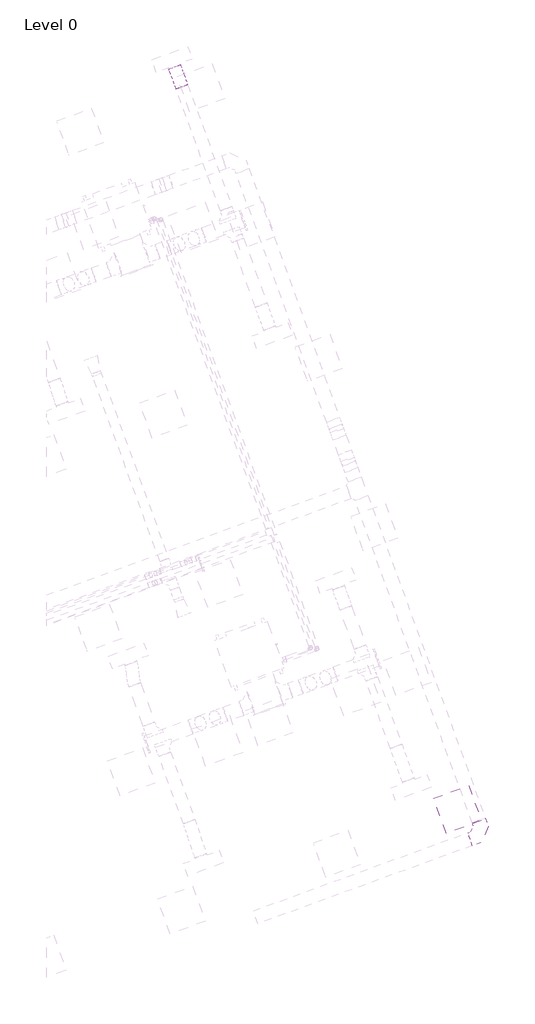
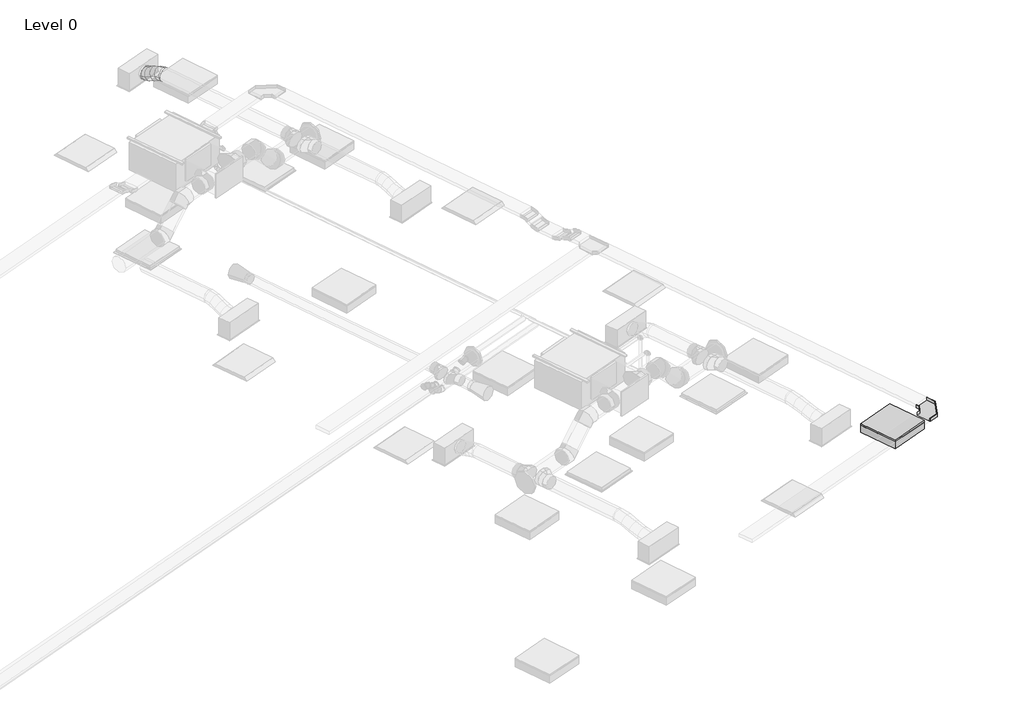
# One storey, part 34 of 34: 1 cable carrier fitting, 1 duct segment, 1 light fixture.
"""IFC4 building model written with IfcOpenShell, lengths in millimetres."""

from ifc_helpers import new_model, si_unit, frame, origin, place, context, project, spatial, circle_curve, ellipse_curve, transform, mapped, element, save
from ifc_brep_helpers import plane_surface, cylinder_surface, advanced_brep
from components import cable_tray_horizontal_bend_standard_fd552271, troffer_light_2x2_parabolic_2_x2_2_lamp_120v_6a063ff3

model = new_model("IFC4")

# Units and contexts
model_context = context("Model", 3, world=origin())
ifc_project = project(units=[si_unit("LENGTHUNIT", "METRE", prefix="MILLI")], contexts=[model_context])

# Site, building, storey
site = spatial("IfcSite", under=ifc_project)
building = spatial("IfcBuilding", under=site)
storey = spatial("IfcBuildingStorey", under=building, Name="Level 0", Elevation=0.0)

# Cable carrier fitting
placement = place(None, origin())
cable_tray_horizontal_bend_standard_shape = cable_tray_horizontal_bend_standard_fd552271(model_context)
element("IfcCableCarrierFitting", 1, ObjectType="Cable Tray Horizontal Bend : Standard", at=placement, inside=storey, context=model_context, shape_type="MappedRepresentation", body=[
    mapped(cable_tray_horizontal_bend_standard_shape, transform((64419.4120815, 12194.2633634, 3248.9627355), x_axis=(0.9396926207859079, 0.34202014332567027, 0.0), y_axis=(-0.34202014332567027, 0.9396926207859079, 0.0), z_axis=(0.0, 0.0, 1.0))),
])

# Duct segment
element("IfcDuctSegment", 2, ObjectType="Flex - Round", at=placement, inside=storey, context=model_context, shape_type="AdvancedBrep", body=[
    advanced_brep(
    [(59391.7751792, 24361.973208, 3072.2088531), (59485.7444412, 24396.1752224, 2972.2088531), (59579.7137033, 24430.3772367, 3072.2088531), (59485.7444412, 24396.1752224, 3172.2088531), (59384.8599769, 24380.9725701, 3072.2088531), (59483.3165362, 24402.8458367, 2972.2088531), (59572.7985011, 24449.3765987, 3072.2088531), (59474.3419418, 24427.5033322, 3172.2088531), (59272.272719, 24690.3035188, 2954.4), (59366.2419811, 24724.5055332, 3054.4), (59460.2112432, 24758.7075475, 2954.4), (59366.2419811, 24724.5055332, 2854.4), (59361.2798724, 24445.7583747, 3053.8012198), (59467.0749017, 24447.4693607, 2959.5299419), (59549.2183966, 24514.1624034, 3053.8012198), (59443.4233673, 24512.4514173, 3148.0724978), (59332.0239491, 24526.1383634, 3013.3044266), (59440.6282832, 24520.1308477, 2922.9218599), (59519.9624732, 24594.5423921, 3013.3044266), (59411.3581391, 24600.5499078, 3103.6869932), (59302.7680258, 24606.5183522, 2972.8076333), (59408.563055, 24608.2293382, 2878.5363553), (59490.7065499, 24674.9223809, 2972.8076333), (59384.9115206, 24673.2113948, 3067.0789113), (59279.1879213, 24671.3041568, 2954.4), (59377.6444806, 24693.1774234, 2854.4), (59467.1264454, 24739.7081855, 2954.4), (59368.6698861, 24717.8349189, 3054.4)],
    [
        (0, 1, circle_curve(frame((59485.7444412, 24396.1752224, 3072.2088531), z_axis=(0.34202014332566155, -0.9396926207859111, 0.0), x_axis=(-0.9396926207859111, -0.34202014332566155, 0.0)), 100.0)),
        (1, 2, circle_curve(frame((59485.7444412, 24396.1752224, 3072.2088531), z_axis=(0.34202014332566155, -0.9396926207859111, 0.0), x_axis=(-0.9396926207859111, -0.34202014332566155, 0.0)), 100.0)),
        (2, 3, circle_curve(frame((59485.7444412, 24396.1752224, 3072.2088531), z_axis=(0.34202014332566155, -0.9396926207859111, 0.0), x_axis=(-0.9396926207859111, -0.34202014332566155, 0.0)), 100.0)),
        (3, 0, circle_curve(frame((59485.7444412, 24396.1752224, 3072.2088531), z_axis=(0.34202014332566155, -0.9396926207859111, 0.0), x_axis=(-0.9396926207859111, -0.34202014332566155, 0.0)), 100.0)),
        (0, 4),
        (4, 5, ellipse_curve(frame((59478.829239, 24415.1745844, 3072.2088531), z_axis=(0.33911394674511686, -0.931707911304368, 0.13008496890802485), x_axis=(0.04449167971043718, -0.12223988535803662, -0.9915028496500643)), 100.8569971, 100.0)),
        (5, 1),
        (5, 6, ellipse_curve(frame((59478.829239, 24415.1745844, 3072.2088531), z_axis=(0.33911394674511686, -0.931707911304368, 0.13008496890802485), x_axis=(0.04449167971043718, -0.12223988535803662, -0.9915028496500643)), 100.8569971, 100.0)),
        (6, 2),
        (6, 7, ellipse_curve(frame((59478.829239, 24415.1745844, 3072.2088531), z_axis=(0.33911394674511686, -0.931707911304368, 0.13008496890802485), x_axis=(0.04449167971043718, -0.12223988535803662, -0.9915028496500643)), 100.8569971, 100.0)),
        (7, 3),
        (7, 4, ellipse_curve(frame((59478.829239, 24415.1745844, 3072.2088531), z_axis=(0.33911394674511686, -0.931707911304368, 0.13008496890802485), x_axis=(0.04449167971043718, -0.12223988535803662, -0.9915028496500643)), 100.8569971, 100.0)),
        (8, 9, circle_curve(frame((59366.2419811, 24724.5055332, 2954.4), z_axis=(-0.342020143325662, 0.9396926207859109, 0.0), x_axis=(-0.9396926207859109, -0.342020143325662, 0.0)), 100.0)),
        (9, 10, circle_curve(frame((59366.2419811, 24724.5055332, 2954.4), z_axis=(-0.342020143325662, 0.9396926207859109, 0.0), x_axis=(-0.9396926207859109, -0.342020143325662, 0.0)), 100.0)),
        (10, 11, circle_curve(frame((59366.2419811, 24724.5055332, 2954.4), z_axis=(-0.342020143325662, 0.9396926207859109, 0.0), x_axis=(-0.9396926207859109, -0.342020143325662, 0.0)), 100.0)),
        (11, 8, circle_curve(frame((59366.2419811, 24724.5055332, 2954.4), z_axis=(-0.342020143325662, 0.9396926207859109, 0.0), x_axis=(-0.9396926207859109, -0.342020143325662, 0.0)), 100.0)),
        (4, 12),
        (12, 13, ellipse_curve(frame((59455.2491345, 24479.960389, 3053.8012198), z_axis=(0.32110349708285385, -0.8822246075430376, 0.3443432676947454), x_axis=(0.11777233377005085, -0.3235768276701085, -0.9388438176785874)), 100.4120986, 100.0)),
        (13, 5),
        (13, 14, ellipse_curve(frame((59455.2491345, 24479.960389, 3053.8012198), z_axis=(0.32110349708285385, -0.8822246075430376, 0.3443432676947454), x_axis=(0.11777233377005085, -0.3235768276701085, -0.9388438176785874)), 100.4120986, 100.0)),
        (14, 6),
        (14, 15, ellipse_curve(frame((59455.2491345, 24479.960389, 3053.8012198), z_axis=(0.32110349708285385, -0.8822246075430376, 0.3443432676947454), x_axis=(0.11777233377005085, -0.3235768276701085, -0.9388438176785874)), 100.4120986, 100.0)),
        (15, 7),
        (15, 12, ellipse_curve(frame((59455.2491345, 24479.960389, 3053.8012198), z_axis=(0.32110349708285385, -0.8822246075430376, 0.3443432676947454), x_axis=(0.11777233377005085, -0.3235768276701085, -0.9388438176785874)), 100.4120986, 100.0)),
        (12, 16),
        (16, 17, circle_curve(frame((59425.9932112, 24560.3403778, 3013.3044266), z_axis=(0.3091265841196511, -0.8493183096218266, 0.4279008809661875), x_axis=(-0.9396926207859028, -0.3420201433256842, 0.0)), 100.0)),
        (17, 13),
        (17, 18, circle_curve(frame((59425.9932112, 24560.3403778, 3013.3044266), z_axis=(0.3091265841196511, -0.8493183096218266, 0.4279008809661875), x_axis=(-0.9396926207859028, -0.3420201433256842, 0.0)), 100.0)),
        (18, 14),
        (18, 19, circle_curve(frame((59425.9932112, 24560.3403778, 3013.3044266), z_axis=(0.3091265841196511, -0.8493183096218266, 0.4279008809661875), x_axis=(-0.9396926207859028, -0.3420201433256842, 0.0)), 100.0)),
        (19, 15),
        (19, 16, circle_curve(frame((59425.9932112, 24560.3403778, 3013.3044266), z_axis=(0.3091265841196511, -0.8493183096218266, 0.4279008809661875), x_axis=(-0.9396926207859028, -0.3420201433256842, 0.0)), 100.0)),
        (16, 20),
        (20, 21, ellipse_curve(frame((59396.7372878, 24640.7203665, 2972.8076333), z_axis=(0.32110349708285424, -0.8822246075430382, 0.34434326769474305), x_axis=(-0.11777233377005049, 0.3235768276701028, 0.9388438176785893)), 100.4120986, 100.0)),
        (21, 17),
        (21, 22, ellipse_curve(frame((59396.7372878, 24640.7203665, 2972.8076333), z_axis=(0.32110349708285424, -0.8822246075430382, 0.34434326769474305), x_axis=(-0.11777233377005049, 0.3235768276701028, 0.9388438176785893)), 100.4120986, 100.0)),
        (22, 18),
        (22, 23, ellipse_curve(frame((59396.7372878, 24640.7203665, 2972.8076333), z_axis=(0.32110349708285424, -0.8822246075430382, 0.34434326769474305), x_axis=(-0.11777233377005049, 0.3235768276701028, 0.9388438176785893)), 100.4120986, 100.0)),
        (23, 19),
        (23, 20, ellipse_curve(frame((59396.7372878, 24640.7203665, 2972.8076333), z_axis=(0.32110349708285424, -0.8822246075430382, 0.34434326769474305), x_axis=(-0.11777233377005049, 0.3235768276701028, 0.9388438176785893)), 100.4120986, 100.0)),
        (20, 24),
        (24, 25, ellipse_curve(frame((59373.1571834, 24705.5061711, 2954.4), z_axis=(0.3391139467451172, -0.9317079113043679, 0.13008496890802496), x_axis=(-0.044491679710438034, 0.12223988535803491, 0.9915028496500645)), 100.8569971, 100.0)),
        (25, 21),
        (25, 26, ellipse_curve(frame((59373.1571834, 24705.5061711, 2954.4), z_axis=(0.3391139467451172, -0.9317079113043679, 0.13008496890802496), x_axis=(-0.044491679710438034, 0.12223988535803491, 0.9915028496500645)), 100.8569971, 100.0)),
        (26, 22),
        (26, 27, ellipse_curve(frame((59373.1571834, 24705.5061711, 2954.4), z_axis=(0.3391139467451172, -0.9317079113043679, 0.13008496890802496), x_axis=(-0.044491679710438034, 0.12223988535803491, 0.9915028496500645)), 100.8569971, 100.0)),
        (27, 23),
        (27, 24, ellipse_curve(frame((59373.1571834, 24705.5061711, 2954.4), z_axis=(0.3391139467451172, -0.9317079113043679, 0.13008496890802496), x_axis=(-0.044491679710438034, 0.12223988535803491, 0.9915028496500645)), 100.8569971, 100.0)),
        (24, 8),
        (11, 25),
        (10, 26),
        (9, 27),
    ],
    [
        plane_surface(frame((59485.7444412, 24396.1752224, 3172.2088531), z_axis=(0.3420201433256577, -0.9396926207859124, 0.0), x_axis=(0.9396926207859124, 0.3420201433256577, 0.0))),
        cylinder_surface(frame((59485.7444412, 24396.1752224, 3072.2088531), z_axis=(0.34202014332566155, -0.9396926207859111, 0.0), x_axis=(-0.9396926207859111, -0.34202014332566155, 0.0)), 100.0),
        plane_surface(frame((59366.2419811, 24724.5055332, 3054.4), z_axis=(-0.3420201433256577, 0.9396926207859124, 0.0), x_axis=(0.9396926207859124, 0.3420201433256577, 0.0))),
        cylinder_surface(frame((59478.829239, 24415.1745844, 3072.2088531), z_axis=(0.3304447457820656, -0.90788947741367, 0.25795923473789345), x_axis=(-0.939692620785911, -0.34202014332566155, 0.0)), 100.0),
        cylinder_surface(frame((59455.2491345, 24479.960389, 3053.8012198), z_axis=(0.3091265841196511, -0.8493183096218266, 0.4279008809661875), x_axis=(-0.9396926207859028, -0.3420201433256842, 0.0)), 100.0),
        cylinder_surface(frame((59425.9932112, 24560.3403778, 3013.3044266), z_axis=(0.3091265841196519, -0.8493183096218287, 0.42790088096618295), x_axis=(-0.9396926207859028, -0.34202014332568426, 0.0)), 100.0),
        cylinder_surface(frame((59396.7372878, 24640.7203665, 2972.8076333), z_axis=(0.3304447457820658, -0.9078894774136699, 0.2579592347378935), x_axis=(-0.939692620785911, -0.3420201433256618, 0.0)), 100.0),
        cylinder_surface(frame((59373.1571834, 24705.5061711, 2954.4), z_axis=(0.342020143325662, -0.9396926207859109, 0.0), x_axis=(-0.9396926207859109, -0.342020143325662, 0.0)), 100.0),
    ],
    [
        (0, [[1, 2, 3, 4]]),
        (1, [[-1, 5, 6, 7]]),
        (1, [[-2, -7, 8, 9]]),
        (1, [[-3, -9, 10, 11]]),
        (1, [[-4, -11, 12, -5]]),
        (2, [[13, 14, 15, 16]]),
        (3, [[-6, 17, 18, 19]]),
        (3, [[-8, -19, 20, 21]]),
        (3, [[-10, -21, 22, 23]]),
        (3, [[-12, -23, 24, -17]]),
        (4, [[-18, 25, 26, 27]]),
        (4, [[-20, -27, 28, 29]]),
        (4, [[-22, -29, 30, 31]]),
        (4, [[-24, -31, 32, -25]]),
        (5, [[-26, 33, 34, 35]]),
        (5, [[-28, -35, 36, 37]]),
        (5, [[-30, -37, 38, 39]]),
        (5, [[-32, -39, 40, -33]]),
        (6, [[-34, 41, 42, 43]]),
        (6, [[-36, -43, 44, 45]]),
        (6, [[-38, -45, 46, 47]]),
        (6, [[-40, -47, 48, -41]]),
        (7, [[-42, 49, -16, 50]]),
        (7, [[-44, -50, -15, 51]]),
        (7, [[-46, -51, -14, 52]]),
        (7, [[-48, -52, -13, -49]]),
    ],
),
])

# Light fixture
troffer_light_2x2_parabolic_2_x2_2_lamp_120v_shape = troffer_light_2x2_parabolic_2_x2_2_lamp_120v_6a063ff3(model_context)
element("IfcLightFixture", 3, ObjectType="Troffer Light - 2x2 Parabolic : 2'x2'(2 Lamp) - 120V", at=placement, inside=storey, context=model_context, shape_type="MappedRepresentation", body=[
    mapped(troffer_light_2x2_parabolic_2_x2_2_lamp_120v_shape, transform((64093.1824859, 12310.7748374, 2800.0), x_axis=(0.9396926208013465, 0.3420201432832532, 0.0), y_axis=(0.3420201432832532, -0.9396926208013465, 0.0), z_axis=(0.0, 0.0, -1.0))),
])

save(model, "model.ifc")
